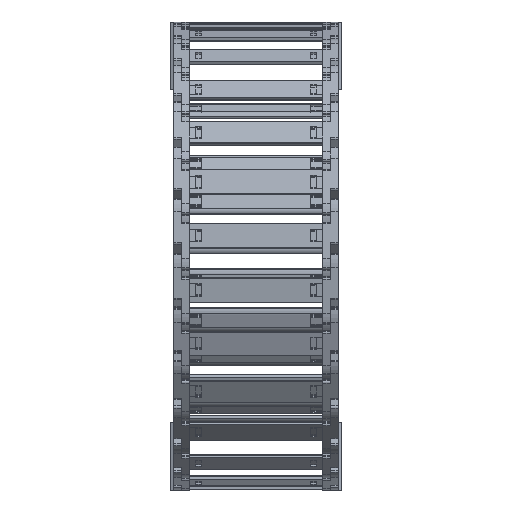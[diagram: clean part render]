
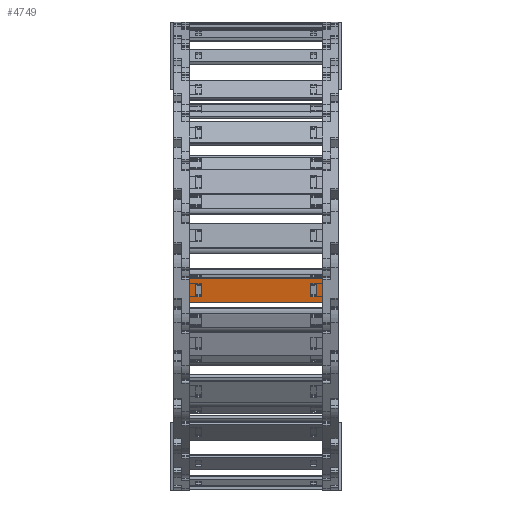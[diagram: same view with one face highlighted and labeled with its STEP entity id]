
A CAD part, left-side view. The second image highlights one B-rep face of the part: STEP entity #4749.
In plain terms, the highlighted planar face has unit normal (-0.989, 0, -0.146) as drawn and (0, 1, 0) by its records, which use the part's own axes.
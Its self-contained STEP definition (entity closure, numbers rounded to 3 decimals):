
#4274=DIRECTION('',(-1.,0.,0.));
#4275=VECTOR('',#4274,3.648);
#4276=CARTESIAN_POINT('',(66.17,1.5,4.075));
#4277=LINE('',#4276,#4275);
#4290=DIRECTION('',(1.,0.,0.));
#4291=VECTOR('',#4290,3.648);
#4292=CARTESIAN_POINT('',(62.522,1.5,-4.075));
#4293=LINE('',#4292,#4291);
#4312=DIRECTION('',(0.,0.,1.));
#4313=VECTOR('',#4312,8.15);
#4314=CARTESIAN_POINT('',(-7.142,1.5,-4.075));
#4315=LINE('',#4314,#4313);
#4324=DIRECTION('',(-1.,0.,0.));
#4325=VECTOR('',#4324,3.648);
#4326=CARTESIAN_POINT('',(-7.142,1.5,4.075));
#4327=LINE('',#4326,#4325);
#4332=DIRECTION('',(1.,0.,0.));
#4333=VECTOR('',#4332,84.9);
#4334=CARTESIAN_POINT('',(-14.76,1.5,-7.9));
#4335=LINE('',#4334,#4333);
#4336=DIRECTION('',(0.,0.,1.));
#4337=VECTOR('',#4336,8.15);
#4338=CARTESIAN_POINT('',(62.522,1.5,-4.075));
#4339=LINE('',#4338,#4337);
#4344=DIRECTION('',(0.,0.,-1.));
#4345=VECTOR('',#4344,15.8);
#4346=CARTESIAN_POINT('',(70.14,1.5,7.9));
#4347=LINE('',#4346,#4345);
#4376=DIRECTION('',(1.,0.,0.));
#4377=VECTOR('',#4376,84.9);
#4378=CARTESIAN_POINT('',(-14.76,1.5,7.9));
#4379=LINE('',#4378,#4377);
#4380=DIRECTION('',(0.,0.,1.));
#4381=VECTOR('',#4380,15.8);
#4382=CARTESIAN_POINT('',(-14.76,1.5,-7.9));
#4383=LINE('',#4382,#4381);
#4440=DIRECTION('',(0.,0.,-1.));
#4441=VECTOR('',#4440,8.15);
#4442=CARTESIAN_POINT('',(-10.79,1.5,4.075));
#4443=LINE('',#4442,#4441);
#4456=DIRECTION('',(1.,0.,0.));
#4457=VECTOR('',#4456,3.648);
#4458=CARTESIAN_POINT('',(-10.79,1.5,-4.075));
#4459=LINE('',#4458,#4457);
#4488=DIRECTION('',(0.,0.,1.));
#4489=VECTOR('',#4488,8.15);
#4490=CARTESIAN_POINT('',(66.17,1.5,-4.075));
#4491=LINE('',#4490,#4489);
#4504=CARTESIAN_POINT('',(66.17,1.5,4.075));
#4505=VERTEX_POINT('',#4504);
#4506=CARTESIAN_POINT('',(62.522,1.5,4.075));
#4507=VERTEX_POINT('',#4506);
#4515=CARTESIAN_POINT('',(70.14,1.5,7.9));
#4517=VERTEX_POINT('',#4515);
#4518=CARTESIAN_POINT('',(70.14,1.5,-7.9));
#4519=VERTEX_POINT('',#4518);
#4528=CARTESIAN_POINT('',(62.522,1.5,-4.075));
#4529=VERTEX_POINT('',#4528);
#4530=CARTESIAN_POINT('',(66.17,1.5,-4.075));
#4531=VERTEX_POINT('',#4530);
#4533=CARTESIAN_POINT('',(-14.76,1.5,7.9));
#4535=VERTEX_POINT('',#4533);
#4536=CARTESIAN_POINT('',(-14.76,1.5,-7.9));
#4537=VERTEX_POINT('',#4536);
#4548=CARTESIAN_POINT('',(-7.142,1.5,-4.075));
#4549=CARTESIAN_POINT('',(-7.142,1.5,4.075));
#4550=VERTEX_POINT('',#4548);
#4551=VERTEX_POINT('',#4549);
#4552=CARTESIAN_POINT('',(-10.79,1.5,-4.075));
#4553=VERTEX_POINT('',#4552);
#4554=CARTESIAN_POINT('',(-10.79,1.5,4.075));
#4555=VERTEX_POINT('',#4554);
#4719=CARTESIAN_POINT('',(101.88,1.5,10.061));
#4720=DIRECTION('',(0.,-1.,0.));
#4721=DIRECTION('',(0.,0.,-1.));
#4722=AXIS2_PLACEMENT_3D('',#4719,#4720,#4721);
#4723=PLANE('',#4722);
#4725=ORIENTED_EDGE('',*,*,#4724,.F.);
#4727=ORIENTED_EDGE('',*,*,#4726,.F.);
#4729=ORIENTED_EDGE('',*,*,#4728,.F.);
#4731=ORIENTED_EDGE('',*,*,#4730,.T.);
#4732=EDGE_LOOP('',(#4725,#4727,#4729,#4731));
#4733=FACE_OUTER_BOUND('',#4732,.F.);
#4734=ORIENTED_EDGE('',*,*,#4598,.T.);
#4735=ORIENTED_EDGE('',*,*,#4576,.F.);
#4737=ORIENTED_EDGE('',*,*,#4736,.F.);
#4738=ORIENTED_EDGE('',*,*,#4618,.F.);
#4739=EDGE_LOOP('',(#4734,#4735,#4737,#4738));
#4740=FACE_BOUND('',#4739,.F.);
#4741=ORIENTED_EDGE('',*,*,#4682,.F.);
#4743=ORIENTED_EDGE('',*,*,#4742,.F.);
#4745=ORIENTED_EDGE('',*,*,#4744,.F.);
#4746=ORIENTED_EDGE('',*,*,#4701,.F.);
#4747=EDGE_LOOP('',(#4741,#4743,#4745,#4746));
#4748=FACE_BOUND('',#4747,.F.);
#4749=ADVANCED_FACE('',(#4733,#4740,#4748),#4723,.F.);
#4576=EDGE_CURVE('',#4505,#4507,#4277,.T.);
#4598=EDGE_CURVE('',#4529,#4507,#4339,.T.);
#4618=EDGE_CURVE('',#4529,#4531,#4293,.T.);
#4682=EDGE_CURVE('',#4550,#4551,#4315,.T.);
#4701=EDGE_CURVE('',#4551,#4555,#4327,.T.);
#4724=EDGE_CURVE('',#4517,#4519,#4347,.T.);
#4726=EDGE_CURVE('',#4535,#4517,#4379,.T.);
#4728=EDGE_CURVE('',#4537,#4535,#4383,.T.);
#4730=EDGE_CURVE('',#4537,#4519,#4335,.T.);
#4736=EDGE_CURVE('',#4531,#4505,#4491,.T.);
#4742=EDGE_CURVE('',#4553,#4550,#4459,.T.);
#4744=EDGE_CURVE('',#4555,#4553,#4443,.T.);
